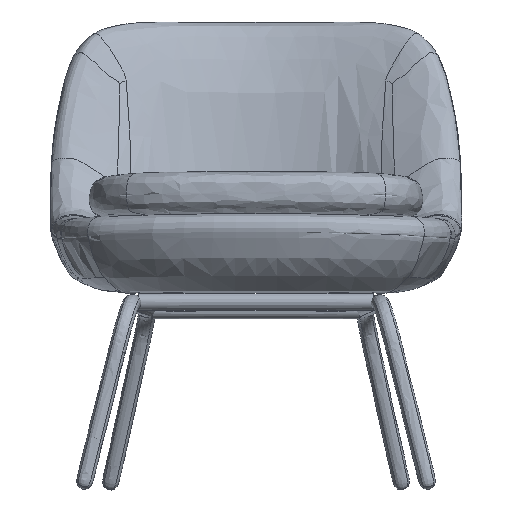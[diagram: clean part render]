
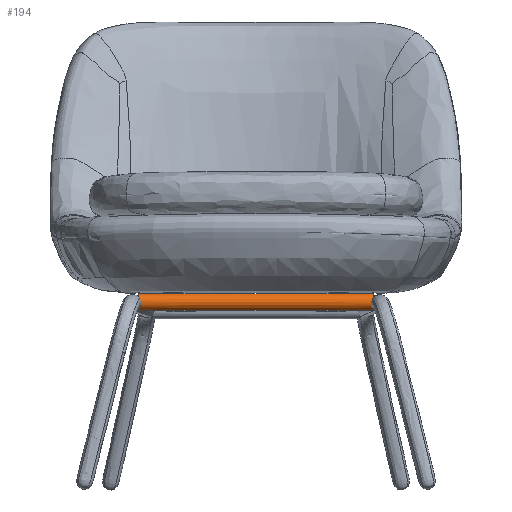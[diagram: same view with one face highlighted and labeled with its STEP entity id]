
A CAD part, front view. The second image highlights one B-rep face of the part: STEP entity #194.
In plain terms, the highlighted free-form (B-spline) face has degree [3, 3] with [11, 7] control points.
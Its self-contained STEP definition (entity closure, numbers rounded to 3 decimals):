
#194=ADVANCED_FACE('',(#341),#2197,.T.);
#341=FACE_OUTER_BOUND('',#488,.T.);
#488=EDGE_LOOP('',(#778,#779,#780,#781));
#778=ORIENTED_EDGE('',*,*,#1355,.F.);
#779=ORIENTED_EDGE('',*,*,#1357,.F.);
#780=ORIENTED_EDGE('',*,*,#1353,.F.);
#781=ORIENTED_EDGE('',*,*,#1357,.T.);
#1353=EDGE_CURVE('',#1999,#1999,#1690,.T.);
#1355=EDGE_CURVE('',#2001,#2001,#1692,.T.);
#1357=EDGE_CURVE('',#1999,#2001,#1694,.T.);
#1690=B_SPLINE_CURVE_WITH_KNOTS('',3,(#11124,#11125,#11126,#11127,#11128,
#11129,#11130,#11131,#11132,#11133,#11134),.UNSPECIFIED.,.T.,.F.,(4,1,1,
1,1,1,1,1,4),(0.,6.126,12.251,18.377,24.502,
30.628,36.754,42.879,49.005),
 .UNSPECIFIED.);
#1692=B_SPLINE_CURVE_WITH_KNOTS('',3,(#11139,#11140,#11141,#11142,#11143,
#11144,#11145,#11146,#11147,#11148,#11149),.UNSPECIFIED.,.T.,.F.,(4,1,1,
1,1,1,1,1,4),(0.,6.126,12.251,18.377,24.502,
30.628,36.754,42.879,49.005),
 .UNSPECIFIED.);
#1694=B_SPLINE_CURVE_WITH_KNOTS('',3,(#11154,#11155,#11156,#11157,#11158,
#11159,#11160),.UNSPECIFIED.,.F.,.F.,(4,1,1,1,4),(0.,51.353,
102.706,154.06,205.413),.UNSPECIFIED.);
#1999=VERTEX_POINT('',#11121);
#2001=VERTEX_POINT('',#11123);
#2197=B_SPLINE_SURFACE_WITH_KNOTS('',3,3,((#11043,#11044,#11045,#11046,
#11047,#11048,#11049),(#11050,#11051,#11052,#11053,#11054,#11055,#11056),
(#11057,#11058,#11059,#11060,#11061,#11062,#11063),(#11064,#11065,#11066,
#11067,#11068,#11069,#11070),(#11071,#11072,#11073,#11074,#11075,#11076,
#11077),(#11078,#11079,#11080,#11081,#11082,#11083,#11084),(#11085,#11086,
#11087,#11088,#11089,#11090,#11091),(#11092,#11093,#11094,#11095,#11096,
#11097,#11098),(#11099,#11100,#11101,#11102,#11103,#11104,#11105),(#11106,
#11107,#11108,#11109,#11110,#11111,#11112),(#11113,#11114,#11115,#11116,
#11117,#11118,#11119)),.UNSPECIFIED.,.T.,.F.,.F.,(4,1,1,1,1,1,1,1,4),(4,
1,1,1,4),(0.,6.126,12.251,18.377,24.502,
30.628,36.754,42.879,49.005),(0.,
51.353,102.706,154.06,205.413),
 .UNSPECIFIED.);
#11043=CARTESIAN_POINT('',(-102.706,-80.562,161.29));
#11044=CARTESIAN_POINT('',(-85.589,-80.562,161.29));
#11045=CARTESIAN_POINT('',(-51.353,-80.562,161.29));
#11046=CARTESIAN_POINT('',(0.,-80.562,161.29));
#11047=CARTESIAN_POINT('',(51.353,-80.562,161.29));
#11048=CARTESIAN_POINT('',(85.589,-80.562,161.29));
#11049=CARTESIAN_POINT('',(102.706,-80.562,161.29));
#11050=CARTESIAN_POINT('',(-102.706,-80.562,163.189));
#11051=CARTESIAN_POINT('',(-85.589,-80.562,163.189));
#11052=CARTESIAN_POINT('',(-51.353,-80.562,163.189));
#11053=CARTESIAN_POINT('',(0.,-80.562,163.189));
#11054=CARTESIAN_POINT('',(51.353,-80.562,163.189));
#11055=CARTESIAN_POINT('',(85.589,-80.562,163.189));
#11056=CARTESIAN_POINT('',(102.706,-80.562,163.189));
#11057=CARTESIAN_POINT('',(-102.706,-82.134,166.986));
#11058=CARTESIAN_POINT('',(-85.589,-82.134,166.986));
#11059=CARTESIAN_POINT('',(-51.353,-82.134,166.986));
#11060=CARTESIAN_POINT('',(0.,-82.134,166.986));
#11061=CARTESIAN_POINT('',(51.353,-82.134,166.986));
#11062=CARTESIAN_POINT('',(85.589,-82.134,166.986));
#11063=CARTESIAN_POINT('',(102.706,-82.134,166.986));
#11064=CARTESIAN_POINT('',(-102.706,-87.83,169.345));
#11065=CARTESIAN_POINT('',(-85.589,-87.83,169.345));
#11066=CARTESIAN_POINT('',(-51.353,-87.83,169.345));
#11067=CARTESIAN_POINT('',(0.,-87.83,169.345));
#11068=CARTESIAN_POINT('',(51.353,-87.83,169.345));
#11069=CARTESIAN_POINT('',(85.589,-87.83,169.345));
#11070=CARTESIAN_POINT('',(102.706,-87.83,169.345));
#11071=CARTESIAN_POINT('',(-102.706,-93.525,166.986));
#11072=CARTESIAN_POINT('',(-85.589,-93.525,166.986));
#11073=CARTESIAN_POINT('',(-51.353,-93.525,166.986));
#11074=CARTESIAN_POINT('',(0.,-93.525,166.986));
#11075=CARTESIAN_POINT('',(51.353,-93.525,166.986));
#11076=CARTESIAN_POINT('',(85.589,-93.525,166.986));
#11077=CARTESIAN_POINT('',(102.706,-93.525,166.986));
#11078=CARTESIAN_POINT('',(-102.706,-95.884,161.29));
#11079=CARTESIAN_POINT('',(-85.589,-95.884,161.29));
#11080=CARTESIAN_POINT('',(-51.353,-95.884,161.29));
#11081=CARTESIAN_POINT('',(0.,-95.884,161.29));
#11082=CARTESIAN_POINT('',(51.353,-95.884,161.29));
#11083=CARTESIAN_POINT('',(85.589,-95.884,161.29));
#11084=CARTESIAN_POINT('',(102.706,-95.884,161.29));
#11085=CARTESIAN_POINT('',(-102.706,-93.525,155.595));
#11086=CARTESIAN_POINT('',(-85.589,-93.525,155.595));
#11087=CARTESIAN_POINT('',(-51.353,-93.525,155.595));
#11088=CARTESIAN_POINT('',(0.,-93.525,155.595));
#11089=CARTESIAN_POINT('',(51.353,-93.525,155.595));
#11090=CARTESIAN_POINT('',(85.589,-93.525,155.595));
#11091=CARTESIAN_POINT('',(102.706,-93.525,155.595));
#11092=CARTESIAN_POINT('',(-102.706,-87.83,153.236));
#11093=CARTESIAN_POINT('',(-85.589,-87.83,153.236));
#11094=CARTESIAN_POINT('',(-51.353,-87.83,153.236));
#11095=CARTESIAN_POINT('',(0.,-87.83,153.236));
#11096=CARTESIAN_POINT('',(51.353,-87.83,153.236));
#11097=CARTESIAN_POINT('',(85.589,-87.83,153.236));
#11098=CARTESIAN_POINT('',(102.706,-87.83,153.236));
#11099=CARTESIAN_POINT('',(-102.706,-82.134,155.595));
#11100=CARTESIAN_POINT('',(-85.589,-82.134,155.595));
#11101=CARTESIAN_POINT('',(-51.353,-82.134,155.595));
#11102=CARTESIAN_POINT('',(0.,-82.134,155.595));
#11103=CARTESIAN_POINT('',(51.353,-82.134,155.595));
#11104=CARTESIAN_POINT('',(85.589,-82.134,155.595));
#11105=CARTESIAN_POINT('',(102.706,-82.134,155.595));
#11106=CARTESIAN_POINT('',(-102.706,-80.562,159.392));
#11107=CARTESIAN_POINT('',(-85.589,-80.562,159.392));
#11108=CARTESIAN_POINT('',(-51.353,-80.562,159.392));
#11109=CARTESIAN_POINT('',(0.,-80.562,159.392));
#11110=CARTESIAN_POINT('',(51.353,-80.562,159.392));
#11111=CARTESIAN_POINT('',(85.589,-80.562,159.392));
#11112=CARTESIAN_POINT('',(102.706,-80.562,159.392));
#11113=CARTESIAN_POINT('',(-102.706,-80.562,161.29));
#11114=CARTESIAN_POINT('',(-85.589,-80.562,161.29));
#11115=CARTESIAN_POINT('',(-51.353,-80.562,161.29));
#11116=CARTESIAN_POINT('',(0.,-80.562,161.29));
#11117=CARTESIAN_POINT('',(51.353,-80.562,161.29));
#11118=CARTESIAN_POINT('',(85.589,-80.562,161.29));
#11119=CARTESIAN_POINT('',(102.706,-80.562,161.29));
#11121=CARTESIAN_POINT('',(-102.706,-80.562,161.29));
#11123=CARTESIAN_POINT('',(102.706,-80.562,161.29));
#11124=CARTESIAN_POINT('',(-102.706,-80.562,161.29));
#11125=CARTESIAN_POINT('',(-102.706,-80.562,159.392));
#11126=CARTESIAN_POINT('',(-102.706,-82.134,155.595));
#11127=CARTESIAN_POINT('',(-102.706,-87.83,153.236));
#11128=CARTESIAN_POINT('',(-102.706,-93.525,155.595));
#11129=CARTESIAN_POINT('',(-102.706,-95.884,161.29));
#11130=CARTESIAN_POINT('',(-102.706,-93.525,166.986));
#11131=CARTESIAN_POINT('',(-102.706,-87.83,169.345));
#11132=CARTESIAN_POINT('',(-102.706,-82.134,166.986));
#11133=CARTESIAN_POINT('',(-102.706,-80.562,163.189));
#11134=CARTESIAN_POINT('',(-102.706,-80.562,161.29));
#11139=CARTESIAN_POINT('',(102.706,-80.562,161.29));
#11140=CARTESIAN_POINT('',(102.706,-80.562,163.189));
#11141=CARTESIAN_POINT('',(102.706,-82.134,166.986));
#11142=CARTESIAN_POINT('',(102.706,-87.83,169.345));
#11143=CARTESIAN_POINT('',(102.706,-93.525,166.986));
#11144=CARTESIAN_POINT('',(102.706,-95.884,161.29));
#11145=CARTESIAN_POINT('',(102.706,-93.525,155.595));
#11146=CARTESIAN_POINT('',(102.706,-87.83,153.236));
#11147=CARTESIAN_POINT('',(102.706,-82.134,155.595));
#11148=CARTESIAN_POINT('',(102.706,-80.562,159.392));
#11149=CARTESIAN_POINT('',(102.706,-80.562,161.29));
#11154=CARTESIAN_POINT('',(-102.706,-80.562,161.29));
#11155=CARTESIAN_POINT('',(-85.589,-80.562,161.29));
#11156=CARTESIAN_POINT('',(-51.353,-80.562,161.29));
#11157=CARTESIAN_POINT('',(0.,-80.562,161.29));
#11158=CARTESIAN_POINT('',(51.353,-80.562,161.29));
#11159=CARTESIAN_POINT('',(85.589,-80.562,161.29));
#11160=CARTESIAN_POINT('',(102.706,-80.562,161.29));
